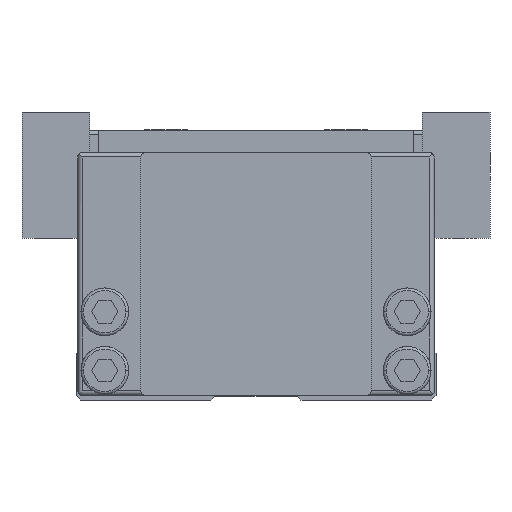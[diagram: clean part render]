
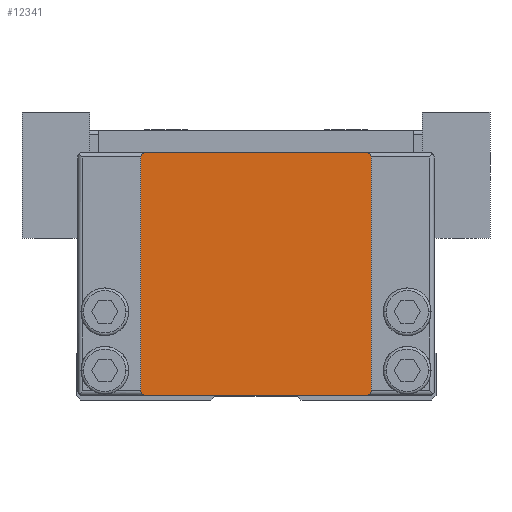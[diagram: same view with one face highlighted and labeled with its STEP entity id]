
A CAD part, front view. The second image highlights one B-rep face of the part: STEP entity #12341.
In plain terms, the highlighted planar face has unit normal (0, -1, 0).
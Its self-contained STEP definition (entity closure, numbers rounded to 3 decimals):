
#5255=VERTEX_POINT('',#15623);
#5307=VERTEX_POINT('',#15680);
#5543=EDGE_CURVE('',#12981,#5255,#15942,.T.);
#6113=EDGE_CURVE('',#14619,#14143,#16581,.T.);
#8823=EDGE_CURVE('',#11675,#13897,#19556,.T.);
#11675=VERTEX_POINT('',#22708);
#12247=EDGE_CURVE('',#5307,#11675,#23339,.T.);
#12341=ADVANCED_FACE('',(#23439),#23440,.T.);
#12491=EDGE_CURVE('',#14209,#14619,#23608,.T.);
#12791=EDGE_CURVE('',#5255,#5307,#23940,.T.);
#12981=VERTEX_POINT('',#24163);
#13639=EDGE_CURVE('',#13897,#14209,#24892,.T.);
#13897=VERTEX_POINT('',#25174);
#14143=VERTEX_POINT('',#25436);
#14209=VERTEX_POINT('',#25507);
#14225=EDGE_CURVE('',#14143,#12981,#25530,.T.);
#14619=VERTEX_POINT('',#25963);
#15623=CARTESIAN_POINT('',(12.8,0.0,1.0));
#15680=CARTESIAN_POINT('',(12.3,0.0,0.5));
#15942=LINE('',#27632,#27633);
#16581=LINE('',#28597,#28598);
#19556=CIRCLE('',#33017,0.5);
#22708=CARTESIAN_POINT('',(-12.3,0.0,0.5));
#23339=LINE('',#38653,#38654);
#23439=FACE_OUTER_BOUND('',#38797,.T.);
#23440=PLANE('',#38798);
#23608=CIRCLE('',#39015,0.5);
#23940=CIRCLE('',#39523,0.5);
#24163=CARTESIAN_POINT('',(12.8,0.0,27.0));
#24892=LINE('',#41038,#41039);
#25174=CARTESIAN_POINT('',(-12.8,0.0,1.0));
#25436=CARTESIAN_POINT('',(12.3,0.0,27.5));
#25507=CARTESIAN_POINT('',(-12.8,0.0,27.0));
#25530=CIRCLE('',#42006,0.5);
#25963=CARTESIAN_POINT('',(-12.3,0.0,27.5));
#27632=CARTESIAN_POINT('',(12.8,0.0,1.0));
#27633=VECTOR('',#44552,1.0);
#28597=CARTESIAN_POINT('',(12.3,0.0,27.5));
#28598=VECTOR('',#45325,1.0);
#33017=AXIS2_PLACEMENT_3D('',#48611,#48612,#48613);
#38653=CARTESIAN_POINT('',(-12.3,0.0,0.5));
#38654=VECTOR('',#52935,1.0);
#38797=EDGE_LOOP('',(#53039,#53040,#53041,#53042,#53043,#53044,#53045,#53046));
#38798=AXIS2_PLACEMENT_3D('',#53047,#53048,#53049);
#39015=AXIS2_PLACEMENT_3D('',#53255,#53256,#53257);
#39523=AXIS2_PLACEMENT_3D('',#53702,#53703,#53704);
#41038=CARTESIAN_POINT('',(-12.8,0.0,27.0));
#41039=VECTOR('',#54775,1.0);
#42006=AXIS2_PLACEMENT_3D('',#55401,#55402,#55403);
#44552=DIRECTION('',(-0.0,0.0,-1.0));
#45325=DIRECTION('',(1.0,0.0,0.0));
#48611=CARTESIAN_POINT('',(-12.3,0.0,1.));
#48612=DIRECTION('',(0.0,1.0,-0.0));
#48613=DIRECTION('',(-1.0,0.0,0.));
#52935=DIRECTION('',(-1.0,0.0,-0.0));
#53039=ORIENTED_EDGE('',*,*,#13639,.F.);
#53040=ORIENTED_EDGE('',*,*,#8823,.F.);
#53041=ORIENTED_EDGE('',*,*,#12247,.F.);
#53042=ORIENTED_EDGE('',*,*,#12791,.F.);
#53043=ORIENTED_EDGE('',*,*,#5543,.F.);
#53044=ORIENTED_EDGE('',*,*,#14225,.F.);
#53045=ORIENTED_EDGE('',*,*,#6113,.F.);
#53046=ORIENTED_EDGE('',*,*,#12491,.F.);
#53047=CARTESIAN_POINT('',(0.,0.0,14.0));
#53048=DIRECTION('',(0.0,-1.0,0.0));
#53049=DIRECTION('',(1.0,0.0,0.0));
#53255=CARTESIAN_POINT('',(-12.3,0.0,27.0));
#53256=DIRECTION('',(0.0,1.0,-0.0));
#53257=DIRECTION('',(0.,0.0,1.0));
#53702=CARTESIAN_POINT('',(12.3,0.0,1.));
#53703=DIRECTION('',(-0.0,1.0,0.0));
#53704=DIRECTION('',(0.0,0.0,-1.0));
#54775=DIRECTION('',(0.0,0.0,1.0));
#55401=CARTESIAN_POINT('',(12.3,0.0,27.0));
#55402=DIRECTION('',(-0.0,1.0,0.0));
#55403=DIRECTION('',(1.0,0.0,0.));
